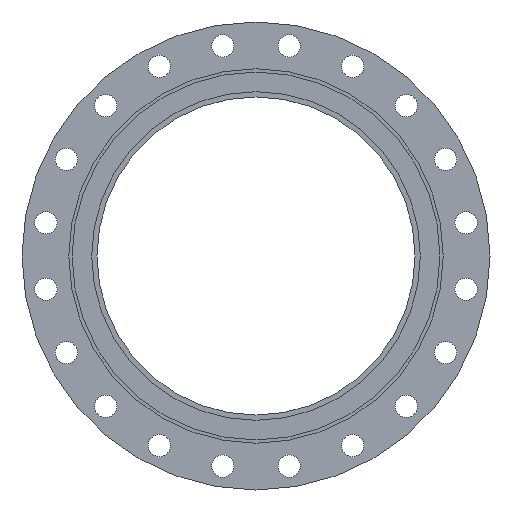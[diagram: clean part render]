
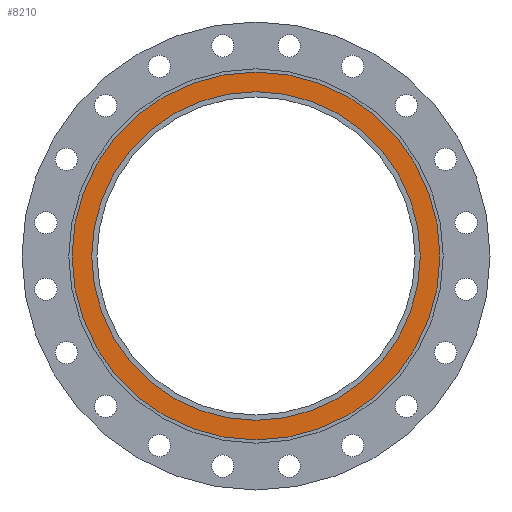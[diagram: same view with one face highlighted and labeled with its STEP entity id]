
A CAD part, left-side view. The second image highlights one B-rep face of the part: STEP entity #8210.
In plain terms, the highlighted planar face has unit normal (-1, 0, 0).
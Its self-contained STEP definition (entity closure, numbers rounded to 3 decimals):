
#8210=ADVANCED_FACE('',(#14845,#14847),#14849,.T.);
#14845=FACE_BOUND('',#14846,.T.);
#14846=EDGE_LOOP('',(#20022,#20023));
#14847=FACE_BOUND('',#14848,.T.);
#14848=EDGE_LOOP('',(#20024,#20025));
#14849=PLANE('',#14850);
#14850=AXIS2_PLACEMENT_3D('',#14851,#14852,#14853);
#14851=CARTESIAN_POINT('',(657.705,357.004,0.));
#14852=DIRECTION('',(-1.,0.,0.));
#14853=DIRECTION('',(0.,0.,1.));
#20022=ORIENTED_EDGE('',*,*,#22611,.F.);
#20023=ORIENTED_EDGE('',*,*,#22612,.F.);
#20024=ORIENTED_EDGE('',*,*,#22609,.T.);
#20025=ORIENTED_EDGE('',*,*,#22610,.T.);
#22609=EDGE_CURVE('',#26952,#26953,#26954,.T.);
#22610=EDGE_CURVE('',#26953,#26952,#26955,.T.);
#22611=EDGE_CURVE('',#26956,#26957,#26958,.T.);
#22612=EDGE_CURVE('',#26957,#26956,#26959,.T.);
#26952=VERTEX_POINT('',#36587);
#26953=VERTEX_POINT('',#36588);
#26954=CIRCLE('',#36589,251.);
#26955=CIRCLE('',#36593,251.);
#26956=VERTEX_POINT('',#36597);
#26957=VERTEX_POINT('',#36598);
#26958=CIRCLE('',#36599,281.);
#26959=CIRCLE('',#36603,281.);
#36587=CARTESIAN_POINT('',(657.705,387.004,0.));
#36588=CARTESIAN_POINT('',(657.705,889.004,0.));
#36589=AXIS2_PLACEMENT_3D('',#36590,#36591,#36592);
#36590=CARTESIAN_POINT('',(657.705,638.004,0.));
#36591=DIRECTION('',(1.,0.,0.));
#36592=DIRECTION('',(0.,-1.,0.));
#36593=AXIS2_PLACEMENT_3D('',#36594,#36595,#36596);
#36594=CARTESIAN_POINT('',(657.705,638.004,0.));
#36595=DIRECTION('',(1.,0.,0.));
#36596=DIRECTION('',(0.,1.,0.));
#36597=CARTESIAN_POINT('',(657.705,919.004,0.));
#36598=CARTESIAN_POINT('',(657.705,357.004,0.));
#36599=AXIS2_PLACEMENT_3D('',#36600,#36601,#36602);
#36600=CARTESIAN_POINT('',(657.705,638.004,0.));
#36601=DIRECTION('',(1.,0.,0.));
#36602=DIRECTION('',(0.,1.,0.));
#36603=AXIS2_PLACEMENT_3D('',#36604,#36605,#36606);
#36604=CARTESIAN_POINT('',(657.705,638.004,0.));
#36605=DIRECTION('',(1.,0.,0.));
#36606=DIRECTION('',(0.,-1.,0.));
